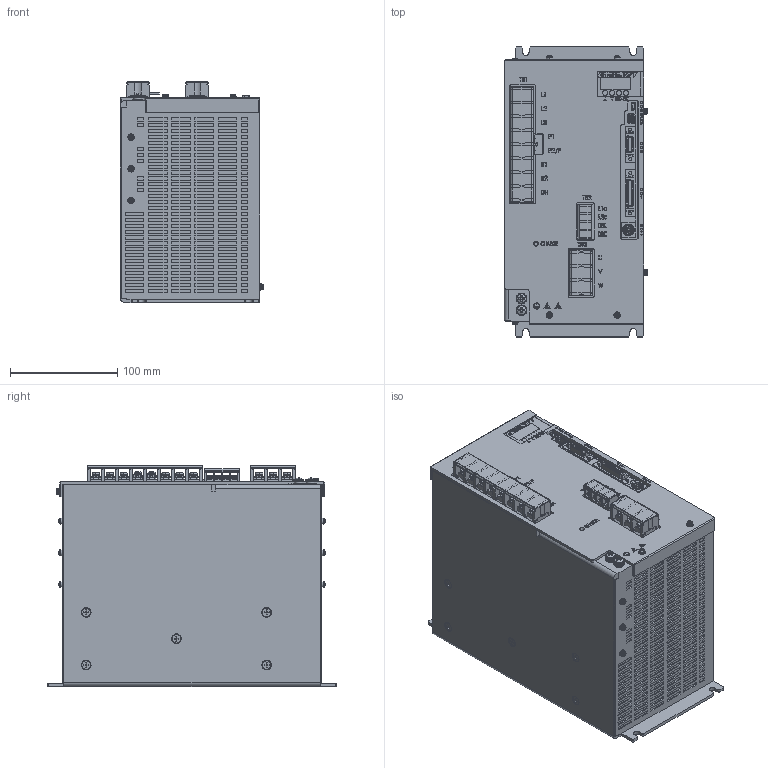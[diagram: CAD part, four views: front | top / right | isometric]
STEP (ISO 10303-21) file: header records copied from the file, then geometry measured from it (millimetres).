
FILE_DESCRIPTION (( 'STEP AP203' ), '1' );
FILE_NAME ('NCR-VA_Serise(332)#SX-05510_STO.STEP', '2025-08-19T00:19:08', ( '' ), ( '' ), 'SwSTEP 2.0', 'SolidWorks 2024', '' );
FILE_SCHEMA (( 'CONFIG_CONTROL_DESIGN' ));
Products named in the file (1): NCR-VA_Serise(332)#SX-05510_STO
Bounding box: 133.45 x 270 x 205.8 mm (x, y, z)
Volume: 5972736.6 mm3; surface area: 283686.9 mm2
Topology: 4 solids, 49 shells, 7786 faces, 21256 edges, 14028 vertices
Faces by surface type: plane 6183, cylinder 873, bspline 440, cone 198, torus 62, sphere 30
Entity records: 267077 total; most frequent: CARTESIAN_POINT 71492, ORIENTED_EDGE 42480, DIRECTION 36902, EDGE_CURVE 21240, VECTOR 16886, LINE 16886, VERTEX_POINT 14028, AXIS2_PLACEMENT_3D 10008
